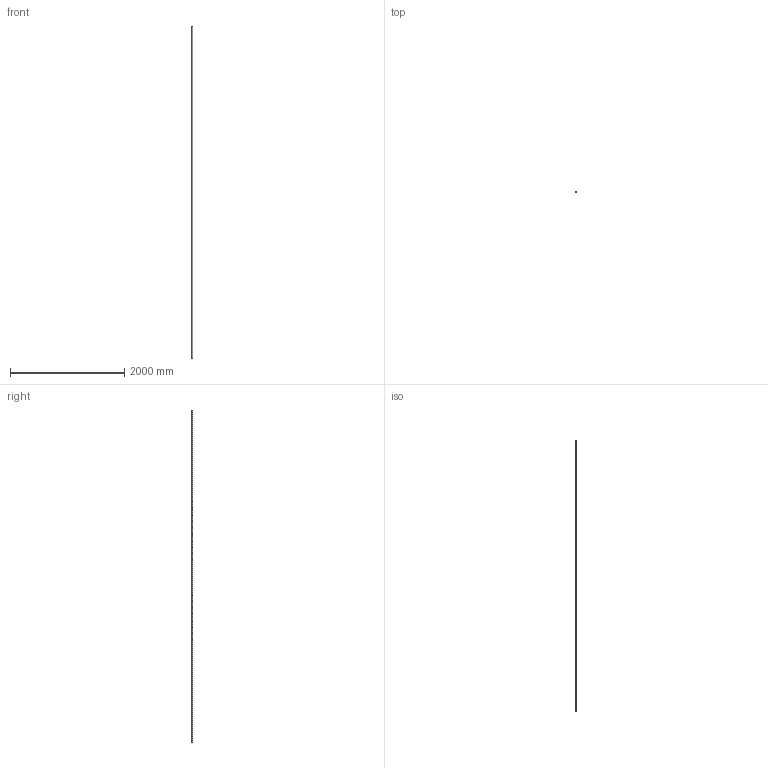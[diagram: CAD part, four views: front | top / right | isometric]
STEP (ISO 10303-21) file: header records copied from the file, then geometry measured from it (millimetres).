
FILE_DESCRIPTION((''),'2;1');
FILE_NAME('2009106200','2017-05-15T',('Administrator'),(''),'PRO/ENGINEER BY PARAMETRIC TECHNOLOGY CORPORATION, 2009360','PRO/ENGINEER BY PARAMETRIC TECHNOLOGY CORPORATION, 2009360','');
FILE_SCHEMA(('AUTOMOTIVE_DESIGN_CC2 { 1 2 10303 214 -1 1 5 2 }'));
Length unit declared in the file: millimetre
Products named in the file (1): 2009106200
Bounding box: 20.5 x 20.5 x 5800 mm (x, y, z)
Volume: 519305.3 mm3; surface area: 692586.1 mm2
Topology: 1 solids, 1 shells, 6 faces, 12 edges, 8 vertices
Faces by surface type: cylinder 4, plane 2
Entity records: 235 total; most frequent: DIRECTION 32, CARTESIAN_POINT 26, ORIENTED_EDGE 24, AXIS2_PLACEMENT_3D 14, PRESENTATION_STYLE_ASSIGNMENT 13, STYLED_ITEM 13, CURVE_STYLE 12, COLOUR_RGB 12
